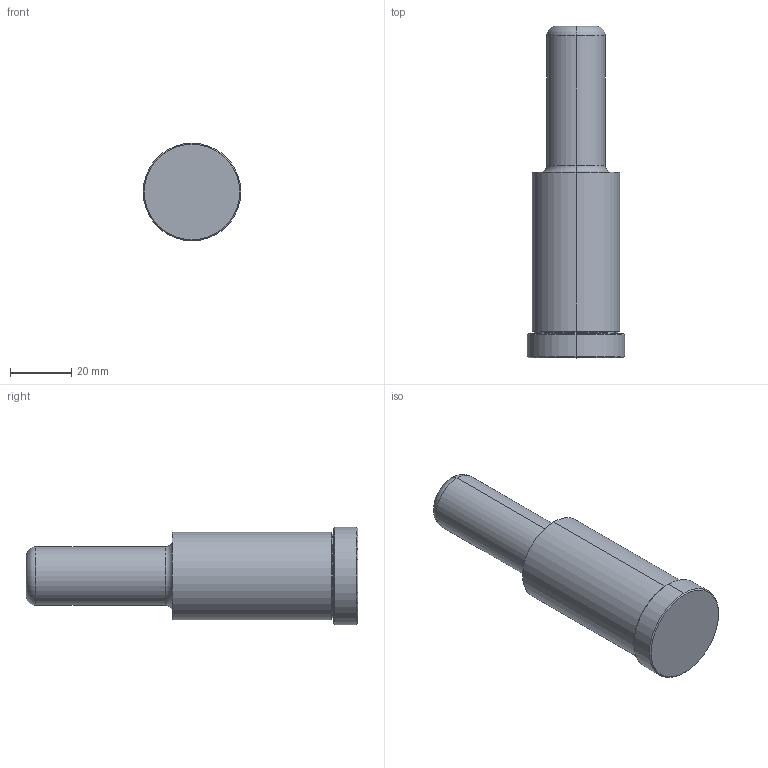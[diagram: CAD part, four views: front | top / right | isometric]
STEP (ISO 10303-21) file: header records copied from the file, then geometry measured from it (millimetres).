
FILE_DESCRIPTION (( 'STEP AP203' ), '1' );
FILE_NAME ('SLP75X237L425.step', '2020-08-24T01:22:55', ( 'Microsoft Corporation' ), ( 'MS' ), 'SwSTEP 2.0', 'SolidWorks 2018', '' );
FILE_SCHEMA (( 'CONFIG_CONTROL_DESIGN' ));
Length unit declared in the file: inch
Products named in the file (1): SLP75X237L425
Bounding box: 31.75 x 107.95 x 31.75 mm (x, y, z)
Volume: 53366 mm3; surface area: 9847.6 mm2
Topology: 1 solids, 1 shells, 23 faces, 44 edges, 26 vertices
Faces by surface type: torus 8, cylinder 6, plane 5, cone 4
Entity records: 671 total; most frequent: DIRECTION 126, CARTESIAN_POINT 94, ORIENTED_EDGE 88, AXIS2_PLACEMENT_3D 58, EDGE_CURVE 44, CIRCLE 34, EDGE_LOOP 26, VERTEX_POINT 26
